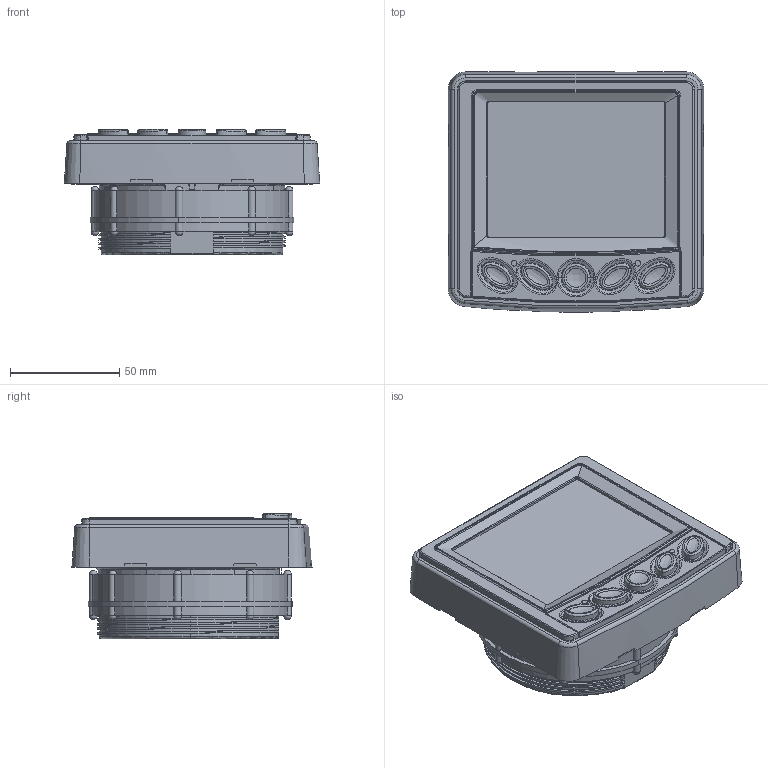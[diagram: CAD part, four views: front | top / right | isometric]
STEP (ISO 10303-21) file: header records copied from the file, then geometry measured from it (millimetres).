
FILE_DESCRIPTION (( 'STEP AP203' ), '1' );
FILE_NAME ('PV380.STEP', '2012-01-31T15:10:00', ( '' ), ( '' ), 'SwSTEP 2.0', 'SolidWorks 2011', '' );
FILE_SCHEMA (( 'CONFIG_CONTROL_DESIGN' ));
Length unit declared in the file: inch
Products named in the file (1): PV380
Bounding box: 116.84 x 109.8 x 57.43 mm (x, y, z)
Surface area: 76796.8 mm2 (no closed solid volume)
Topology: 0 solids, 14 shells, 720 faces, 2469 edges, 1704 vertices
Faces by surface type: plane 205, cylinder 179, bspline 161, cone 78, torus 73, sphere 24
Entity records: 45161 total; most frequent: CARTESIAN_POINT 26319, ORIENTED_EDGE 4020, DIRECTION 3415, EDGE_CURVE 2414, VERTEX_POINT 1672, AXIS2_PLACEMENT_3D 1212, VECTOR 991, LINE 991
